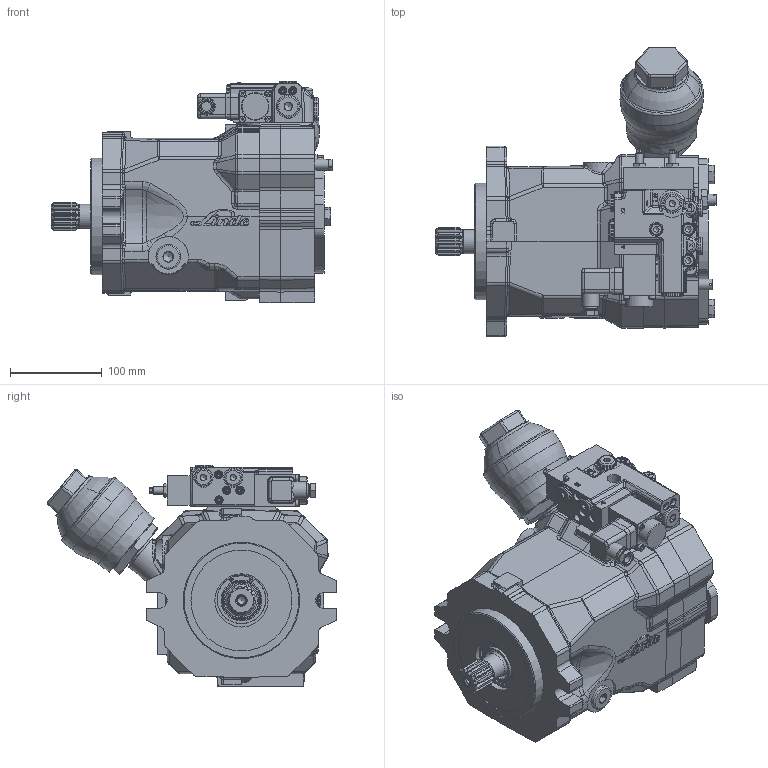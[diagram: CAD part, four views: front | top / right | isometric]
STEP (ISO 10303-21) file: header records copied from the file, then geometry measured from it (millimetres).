
FILE_DESCRIPTION(/* description */ (''),/* implementation_level */ '2;1');
FILE_NAME(/* name */ '2538055015m355.stp',/* time_stamp */ '2012-03-30T14:10:32+02:00',/* author */ (''),/* organization */ (''),/* preprocessor_version */ 'ST-DEVELOPER v11',/* originating_system */ 'SIEMENS PLM Software NX 7.5',/* authorisation */ '');
FILE_SCHEMA (('AUTOMOTIVE_DESIGN { 1 0 10303 214 1 1 1 1 }'));
Products named in the file (1): 2538055015m355
Bounding box: 306.5 x 315.81 x 241.3 mm (x, y, z)
Volume: 8669991.2 mm3; surface area: 675804.6 mm2
Topology: 10 solids, 30 shells, 2659 faces, 6346 edges, 3863 vertices
Faces by surface type: plane 1011, cylinder 679, cone 376, bspline 251, torus 124, extrusion 88, sphere 66, revolution 64
Full cylindrical faces by diameter (mm): 2 x4, 2.5 x2, 5 x7, 5.2 x6, 6 x4, 6.8 x5, 6.985 x5, 7 x5, 8 x9, 8.5 x10, 9 x7, 10 x14, 10.2 x8, 10.25 x6, 10.5 x2, 10.7 x2, 11 x4, 11.85 x3, 12 x10, 12.782 x9, 13 x7, 13.5 x8, 13.7 x1, 13.8 x1, 15 x4, 15.1 x1, 16 x2, 18 x11, 18.8 x10, 19 x2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
Entity records: 80066 total; most frequent: CARTESIAN_POINT 23572, DIRECTION 11399, ORIENTED_EDGE 11162, EDGE_CURVE 5581, AXIS2_PLACEMENT_3D 4488, VERTEX_POINT 3681, EDGE_LOOP 3351, ADVANCED_FACE 2659
